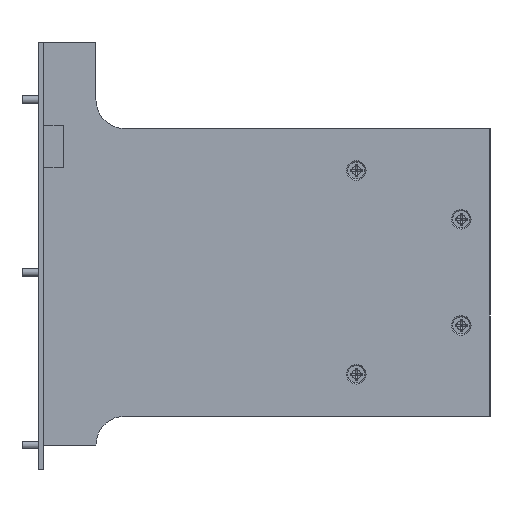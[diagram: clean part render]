
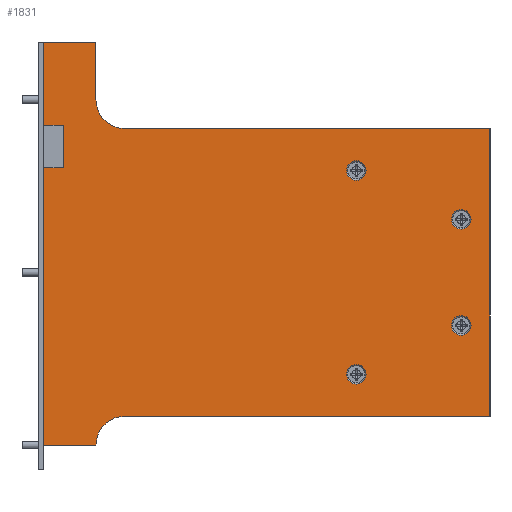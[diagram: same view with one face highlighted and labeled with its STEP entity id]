
A CAD part, front view. The second image highlights one B-rep face of the part: STEP entity #1831.
In plain terms, the highlighted planar face has unit normal (0, -1, 0) as drawn and (0, 0, 1) by its records, which use the part's own axes.
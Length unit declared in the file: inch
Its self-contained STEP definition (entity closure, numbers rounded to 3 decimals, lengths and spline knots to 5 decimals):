
#159=FACE_BOUND($,#426,.T.);
#160=FACE_BOUND($,#427,.T.);
#161=FACE_BOUND($,#428,.T.);
#162=FACE_BOUND($,#429,.T.);
#163=FACE_BOUND($,#430,.T.);
#216=CIRCLE($,#1981,0.17);
#217=CIRCLE($,#1982,0.17);
#218=CIRCLE($,#1983,0.17);
#219=CIRCLE($,#1984,0.17);
#220=CIRCLE($,#1985,0.5);
#221=CIRCLE($,#1986,0.5);
#426=EDGE_LOOP($,(#1386));
#427=EDGE_LOOP($,(#1387));
#428=EDGE_LOOP($,(#1388));
#429=EDGE_LOOP($,(#1389));
#430=EDGE_LOOP($,(#1390,#1391,#1392,#1393,#1394,#1395,#1396,#1397,#1398,
#1399,#1400,#1401,#1402));
#584=LINE($,#2872,#745);
#588=LINE($,#2890,#749);
#589=LINE($,#2892,#750);
#590=LINE($,#2894,#751);
#591=LINE($,#2898,#752);
#592=LINE($,#2900,#753);
#593=LINE($,#2902,#754);
#594=LINE($,#2904,#755);
#595=LINE($,#2906,#756);
#596=LINE($,#2908,#757);
#597=LINE($,#2909,#758);
#745=VECTOR($,#2287,0.909);
#749=VECTOR($,#2305,6.349);
#750=VECTOR($,#2306,5.);
#751=VECTOR($,#2307,6.349);
#752=VECTOR($,#2310,1.);
#753=VECTOR($,#2311,0.909);
#754=VECTOR($,#2312,1.445);
#755=VECTOR($,#2313,0.34271);
#756=VECTOR($,#2314,0.735);
#757=VECTOR($,#2315,0.34271);
#758=VECTOR($,#2316,4.82);
#915=VERTEX_POINT($,#2869);
#916=VERTEX_POINT($,#2871);
#918=VERTEX_POINT($,#2879);
#919=VERTEX_POINT($,#2881);
#920=VERTEX_POINT($,#2883);
#921=VERTEX_POINT($,#2885);
#922=VERTEX_POINT($,#2887);
#923=VERTEX_POINT($,#2889);
#924=VERTEX_POINT($,#2891);
#925=VERTEX_POINT($,#2893);
#926=VERTEX_POINT($,#2895);
#927=VERTEX_POINT($,#2897);
#928=VERTEX_POINT($,#2899);
#929=VERTEX_POINT($,#2901);
#930=VERTEX_POINT($,#2903);
#931=VERTEX_POINT($,#2905);
#932=VERTEX_POINT($,#2907);
#1083=EDGE_CURVE($,#916,#915,#584,.T.);
#1087=EDGE_CURVE($,#918,#918,#216,.T.);
#1088=EDGE_CURVE($,#919,#919,#217,.T.);
#1089=EDGE_CURVE($,#920,#920,#218,.T.);
#1090=EDGE_CURVE($,#921,#921,#219,.T.);
#1091=EDGE_CURVE($,#922,#915,#220,.T.);
#1092=EDGE_CURVE($,#922,#923,#588,.T.);
#1093=EDGE_CURVE($,#923,#924,#589,.T.);
#1094=EDGE_CURVE($,#924,#925,#590,.T.);
#1095=EDGE_CURVE($,#926,#925,#221,.T.);
#1096=EDGE_CURVE($,#926,#927,#591,.T.);
#1097=EDGE_CURVE($,#927,#928,#592,.T.);
#1098=EDGE_CURVE($,#928,#929,#593,.T.);
#1099=EDGE_CURVE($,#929,#930,#594,.T.);
#1100=EDGE_CURVE($,#930,#931,#595,.T.);
#1101=EDGE_CURVE($,#931,#932,#596,.T.);
#1102=EDGE_CURVE($,#932,#916,#597,.T.);
#1386=ORIENTED_EDGE($,*,*,#1087,.T.);
#1387=ORIENTED_EDGE($,*,*,#1088,.T.);
#1388=ORIENTED_EDGE($,*,*,#1089,.T.);
#1389=ORIENTED_EDGE($,*,*,#1090,.T.);
#1390=ORIENTED_EDGE($,*,*,#1083,.T.);
#1391=ORIENTED_EDGE($,*,*,#1091,.F.);
#1392=ORIENTED_EDGE($,*,*,#1092,.T.);
#1393=ORIENTED_EDGE($,*,*,#1093,.T.);
#1394=ORIENTED_EDGE($,*,*,#1094,.T.);
#1395=ORIENTED_EDGE($,*,*,#1095,.F.);
#1396=ORIENTED_EDGE($,*,*,#1096,.T.);
#1397=ORIENTED_EDGE($,*,*,#1097,.T.);
#1398=ORIENTED_EDGE($,*,*,#1098,.T.);
#1399=ORIENTED_EDGE($,*,*,#1099,.T.);
#1400=ORIENTED_EDGE($,*,*,#1100,.T.);
#1401=ORIENTED_EDGE($,*,*,#1101,.T.);
#1402=ORIENTED_EDGE($,*,*,#1102,.T.);
#1744=PLANE($,#1980);
#1831=ADVANCED_FACE($,(#159,#160,#161,#162,#163),#1744,.T.);
#1980=AXIS2_PLACEMENT_3D($,#2878,#2293,#2294);
#1981=AXIS2_PLACEMENT_3D($,#2880,#2295,#2296);
#1982=AXIS2_PLACEMENT_3D($,#2882,#2297,#2298);
#1983=AXIS2_PLACEMENT_3D($,#2884,#2299,#2300);
#1984=AXIS2_PLACEMENT_3D($,#2886,#2301,#2302);
#1985=AXIS2_PLACEMENT_3D($,#2888,#2303,#2304);
#1986=AXIS2_PLACEMENT_3D($,#2896,#2308,#2309);
#2287=DIRECTION($,(0.,1.,0.));
#2293=DIRECTION('center_axis',(0.,0.,1.));
#2294=DIRECTION('ref_axis',(1.,0.,0.));
#2295=DIRECTION('center_axis',(0.,0.,-1.));
#2296=DIRECTION('ref_axis',(1.,0.,0.));
#2297=DIRECTION('center_axis',(0.,0.,-1.));
#2298=DIRECTION('ref_axis',(1.,0.,0.));
#2299=DIRECTION('center_axis',(0.,0.,-1.));
#2300=DIRECTION('ref_axis',(1.,0.,0.));
#2301=DIRECTION('center_axis',(0.,0.,-1.));
#2302=DIRECTION('ref_axis',(1.,0.,0.));
#2303=DIRECTION('center_axis',(0.,0.,1.));
#2304=DIRECTION('ref_axis',(-0.707,-0.707,0.));
#2305=DIRECTION($,(0.,1.,0.));
#2306=DIRECTION($,(-1.,0.,0.));
#2307=DIRECTION($,(0.,-1.,0.));
#2308=DIRECTION('center_axis',(0.,0.,1.));
#2309=DIRECTION('ref_axis',(0.707,-0.707,0.));
#2310=DIRECTION($,(-1.,0.,0.));
#2311=DIRECTION($,(0.,-1.,0.));
#2312=DIRECTION($,(1.,0.,0.));
#2313=DIRECTION($,(0.,1.,0.));
#2314=DIRECTION($,(1.,0.,0.));
#2315=DIRECTION($,(0.,-1.,0.));
#2316=DIRECTION($,(1.,0.,0.));
#2869=CARTESIAN_POINT('',(7.,1.,0.));
#2871=CARTESIAN_POINT('',(7.,0.091,0.));
#2872=CARTESIAN_POINT($,(7.,2.18993,0.));
#2878=CARTESIAN_POINT('Origin',(3.84275,3.37986,0.));
#2879=CARTESIAN_POINT('',(2.399,5.526,0.));
#2880=CARTESIAN_POINT('Origin',(2.229,5.526,0.));
#2881=CARTESIAN_POINT('',(3.248,7.349,0.));
#2882=CARTESIAN_POINT('Origin',(3.078,7.349,0.));
#2883=CARTESIAN_POINT('',(5.092,7.349,0.));
#2884=CARTESIAN_POINT('Origin',(4.922,7.349,0.));
#2885=CARTESIAN_POINT('',(5.941,5.526,0.));
#2886=CARTESIAN_POINT('Origin',(5.771,5.526,0.));
#2887=CARTESIAN_POINT('',(6.5,1.5,0.));
#2888=CARTESIAN_POINT('Origin',(7.,1.5,0.));
#2889=CARTESIAN_POINT('',(6.5,7.849,0.));
#2890=CARTESIAN_POINT($,(6.5,1.,0.));
#2891=CARTESIAN_POINT('',(1.5,7.849,0.));
#2892=CARTESIAN_POINT($,(6.5,7.849,0.));
#2893=CARTESIAN_POINT('',(1.5,1.5,0.));
#2894=CARTESIAN_POINT($,(1.5,7.849,0.));
#2895=CARTESIAN_POINT('',(1.,1.,0.));
#2896=CARTESIAN_POINT('Origin',(1.,1.5,0.));
#2897=CARTESIAN_POINT('',(0.,1.,0.));
#2898=CARTESIAN_POINT($,(1.5,1.,0.));
#2899=CARTESIAN_POINT('',(0.,0.091,0.));
#2900=CARTESIAN_POINT($,(0.,1.,0.));
#2901=CARTESIAN_POINT('',(1.445,0.091,0.));
#2902=CARTESIAN_POINT($,(5.63638,0.091,0.));
#2903=CARTESIAN_POINT('',(1.445,0.43371,0.));
#2904=CARTESIAN_POINT($,(1.445,1.73543,0.));
#2905=CARTESIAN_POINT('',(2.18,0.43371,0.));
#2906=CARTESIAN_POINT($,(2.64388,0.43371,0.));
#2907=CARTESIAN_POINT('',(2.18,0.091,0.));
#2908=CARTESIAN_POINT($,(2.18,1.90679,0.));
#2909=CARTESIAN_POINT($,(5.63638,0.091,0.));
